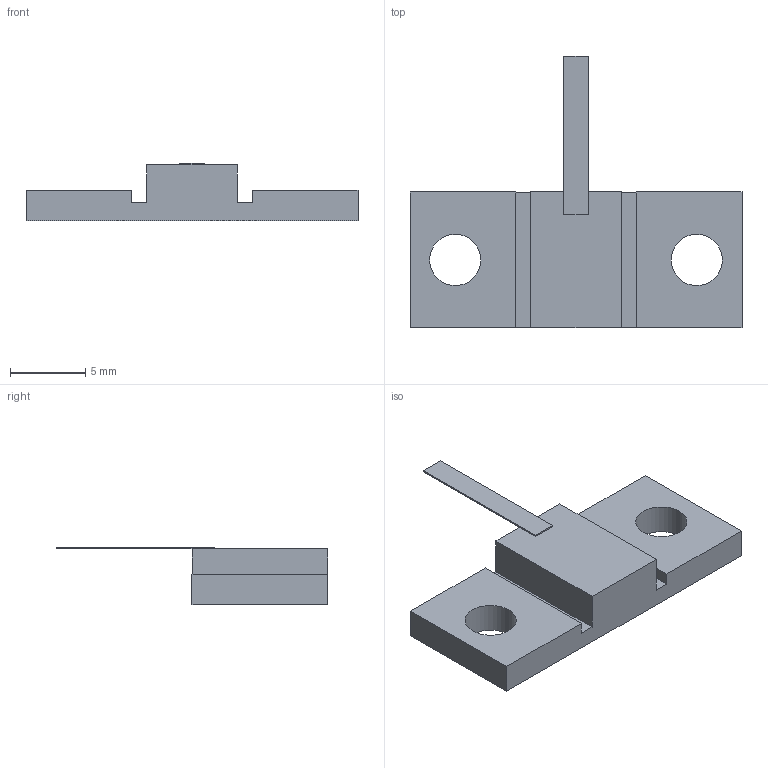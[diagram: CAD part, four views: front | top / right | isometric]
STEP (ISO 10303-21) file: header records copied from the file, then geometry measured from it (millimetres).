
FILE_DESCRIPTION(('STEP AP203'), '1');
FILE_NAME('Ð1-17-150', '', ('UNSPECIFIED'), ('UNSPECIFIED'), 'ASCON STEP Converter 1.6', 'ASCON Math Kernel', '');
FILE_SCHEMA(('CONFIG_CONTROL_DESIGN'));
Length unit declared in the file: millimetre
Bounding box: 22 x 18 x 3.8 mm (x, y, z)
Volume: 438.6 mm3; surface area: 643.6 mm2
Topology: 1 solids, 2 shells, 41 faces, 109 edges, 72 vertices
Faces by surface type: plane 35, cylinder 6
Full cylindrical faces by diameter (mm): 3.4 x2
Entity records: 1631 total; most frequent: CARTESIAN_POINT 221, ORIENTED_EDGE 214, DIRECTION 203, EDGE_CURVE 107, LINE 95, VECTOR 95, VERTEX_POINT 72, AXIS2_PLACEMENT_3D 54
